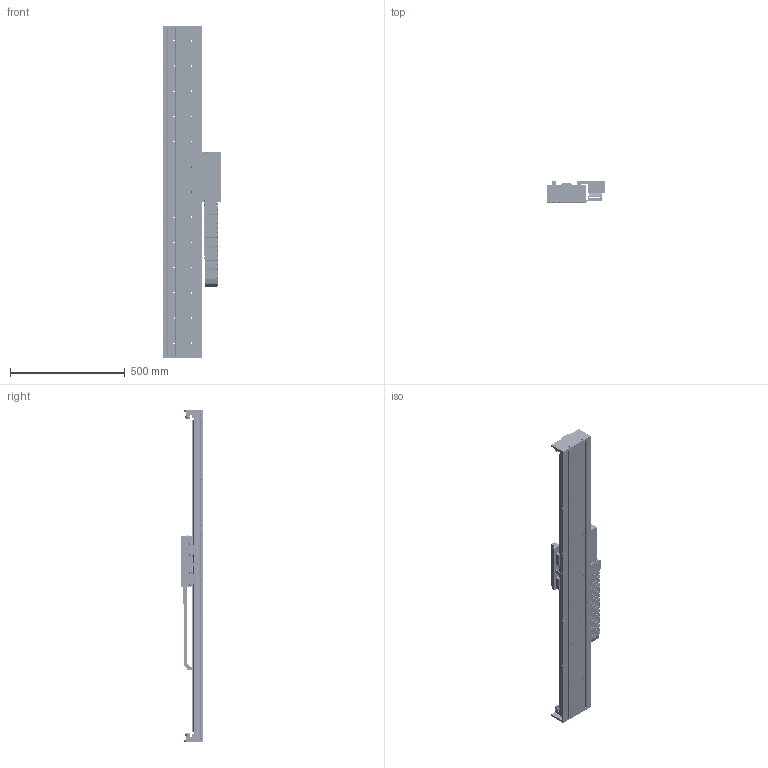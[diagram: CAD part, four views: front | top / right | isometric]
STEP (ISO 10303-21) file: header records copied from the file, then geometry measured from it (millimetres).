
FILE_DESCRIPTION (( 'STEP AP203' ), '1' );
FILE_NAME ('STF35120J-xC1B-Axx.STEP', '2007-09-17T20:57:22', ( 'Yaskawa' ), ( 'Yaskawa' ), 'SwSTEP 2.0', 'SolidWorks 2007', '' );
FILE_SCHEMA (( 'CONFIG_CONTROL_DESIGN' ));
Products named in the file (63): 07.50.028.0_109; 07.50.028.0_110; 07.50.028.0_112; 07.50.028.0_113; 07.50.028.0_116; 07.50.028.0_118; 07.50.028.0_119; 07.50.028.0_120; 07.50.028.0_121; 07.50.028.0_111; 07.50.028.0_105; End Stop with Bumper; STF2035-007 End Stop; SSR15W Block; STF2035-001C F35-120 Carriage; STF2035-002A-R2 F2035 Carriage Horn; SGLFW-35120AP; STCM-R1; STCM-005-R1 Cable Assembly Cover; STCM-006-R1 Upper E-chain Bracket; Serial Converter; STF2035-006 Endplate; STCM-007 Lower E-Chain Bracket; 07.50.028.0_106; 07.50.028.0_117; 07.50.028.0_100; 07.50.028.0_107; 07.50.028.0_115; 07.50.028.0_108; 07.50.028.0_114; 07.50.028.0_122; 07.50.028.0_123; STF35120J-xC1B-Axx; STF35BM Base_STF35120-009; STF35120 Base_STF35BM-009; SGLFM-35540AC; SGLFM-35756AC; Bumper-Medium; B18.3.1M - 6 x 1.0 x 16 Hex SHCS -- 16NHX_B18.3.1M - 6 x 1.0 x 16 Hex SHCS -- 16NHX; Mult-SR15+580LY_009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
Assembly tree (117 placements, depth 4):
  STF35120J-xC1B-Axx
    STF35BM Base_STF35120-009
      End Stop with Bumper  x4
        B18.3.1M - 6 x 1.0 x 16 Hex SHCS -- 16NHX_B18.3.1M - 6 x 1.0 x 16 Hex SHCS -- 16NHX
        STF2035-007 End Stop
        Bumper-Medium
      SGLFM-35540AC
      Mult-SR15+580LY_009  x2
      STF35120 Base_STF35BM-009
      SGLFM-35756AC
    STF2035-006 Endplate  x2
    STCM-007 Lower E-Chain Bracket
    STF35120 Complete Carriage
      B18.3.1M - 6 x 1.0 x 25 Hex SHCS -- 25CHX_B18.3.1M - 6 x 1.0 x 25 Hex SHCS -- 25CHX  x6
      B18.3.1M - 4 x 0.7 x 12 Hex SHCS -- 12CHX_B18.3.1M - 4 x 0.7 x 12 Hex SHCS -- 12CHX  x18
      STCM-R1
        Serial Converter
        STCM-001-R2 Cable Bracket
        B18.3.4M - 3 x 0.5 x 12 SBHCS --N_B18.3.4M - 3 x 0.5 x 12 SBHCS --N  x4
        STCM-003 Cable Assembly Bottom
        B18.3.5M - 3 x 0.5 x 6 Socket FCHS  -- 6N_B18.3.5M - 3 x 0.5 x 6 Socket FCHS  -- 6N  x6
        STCM-004 Cable Assembly Side
        STCM-002-R2 Cable Assembly Front
        STCM-006-R1 Upper E-chain Bracket
        STCM-005-R1 Cable Assembly Cover
      B18.3.4M - 3 x 0.5 x 12 SBHCS --N_B18.3.4M - 3 x 0.5 x 12 SBHCS --N  x3
      STF35-120 SSR15W Carriage-R2
        SSR15W Block  x4
        STF2035-005-R2 Cable Router
        STF2035-001C F35-120 Carriage
        RGH22B
        SGLFW-35120AP
        STF2035-003 Renishaw Encoder Mount
        STF2035-002A-R2 F2035 Carriage Horn  x2
        STF2035-004 Flag
    STF20120J
      07.50.028.0_116
      07.50.028.0_97
      07.50.028.0_105  x7
      07.50.028.0_119
      07.50.028.0_117
      07.50.028.0_110
      07.50.028.0_98
      07.50.028.0_106
      07.50.028.0_108
      07.50.028.0_112
      07.50.028.0_96
      07.50.028.0_113
      07.50.028.0_107
      07.50.028.0_120
      07.50.028.0_101
      07.50.028.0_104
      07.50.028.0_111  x8
      07.50.028.0_115
      07.50.028.0_103
      07.50.028.0_122
      07.50.028.0_100
      07.50.028.0_121
      07.50.028.0_102
      07.50.028.0_109
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Bounding box: 251.03 x 94.7 x 1449.05 mm (x, y, z)
Volume: 7182409.9 mm3; surface area: 2032544.6 mm2
Topology: 156 solids, 156 shells, 7407 faces, 18782 edges, 11824 vertices
Faces by surface type: plane 3791, cylinder 2764, cone 708, torus 86, bspline 44, sphere 14
Entity records: 147165 total; most frequent: DIRECTION 24734, CARTESIAN_POINT 24261, ORIENTED_EDGE 22928, EDGE_CURVE 11464, AXIS2_PLACEMENT_3D 8627, VERTEX_POINT 7493, VECTOR 7480, LINE 7480
